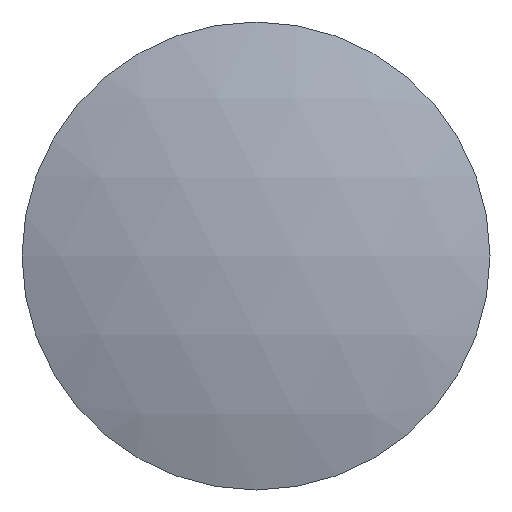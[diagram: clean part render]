
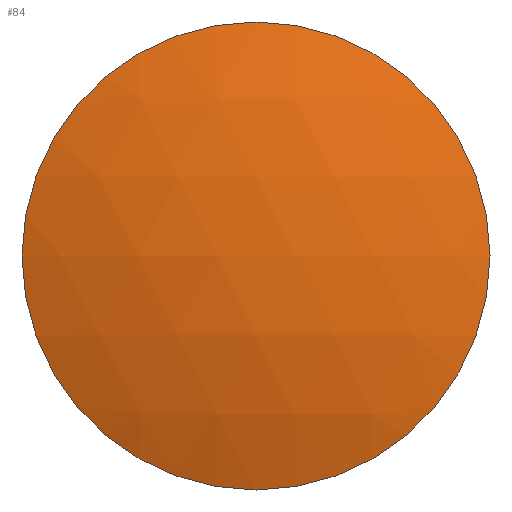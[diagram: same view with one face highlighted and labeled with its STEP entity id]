
A CAD part, front view. The second image highlights one B-rep face of the part: STEP entity #84.
In plain terms, the highlighted spherical face has radius 155.7 mm.
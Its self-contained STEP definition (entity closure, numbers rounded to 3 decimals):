
#68=CARTESIAN_POINT('',(0.0,144.5,0.0));
#69=DIRECTION('',(0.0,0.0,1.0));
#70=DIRECTION('',(1.0,0.0,0.0));
#71=AXIS2_PLACEMENT_3D('',#68,#69,#70);
#72=SPHERICAL_SURFACE('',#71,155.7);
#73=CARTESIAN_POINT('',(-50.,-2.953,0.0));
#74=VERTEX_POINT('',#73);
#75=CARTESIAN_POINT('',(0.0,-2.953,0.0));
#76=DIRECTION('',(0.0,1.0,0.0));
#77=DIRECTION('',(-1.0,0.0,0.0));
#78=AXIS2_PLACEMENT_3D('',#75,#76,#77);
#79=CIRCLE('',#78,50.);
#80=EDGE_CURVE('',#74,#74,#79,.T.);
#81=ORIENTED_EDGE('',*,*,#80,.F.);
#82=EDGE_LOOP('',(#81));
#83=FACE_OUTER_BOUND('',#82,.T.);
#84=ADVANCED_FACE('',(#83),#72,.T.);
